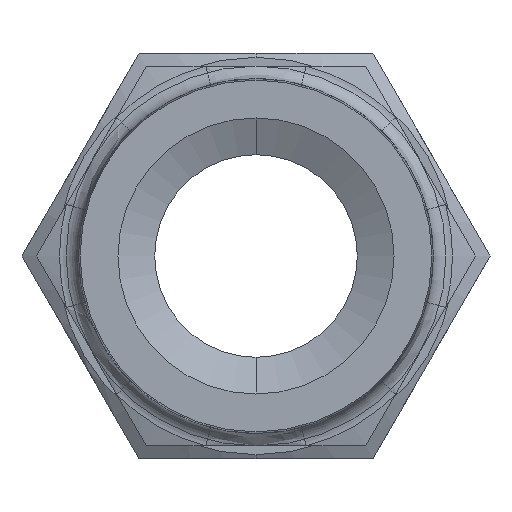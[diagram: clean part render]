
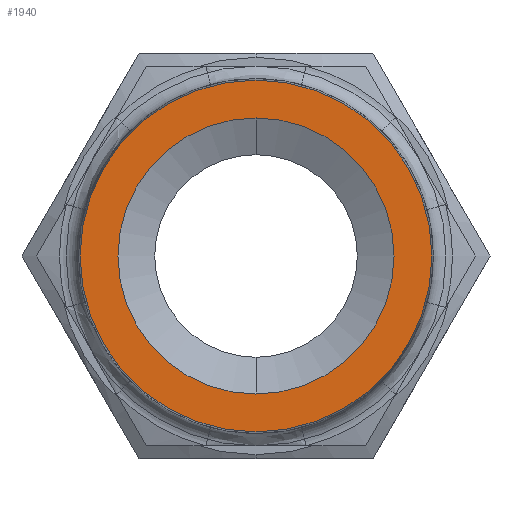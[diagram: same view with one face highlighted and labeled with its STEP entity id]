
A CAD part, left-side view. The second image highlights one B-rep face of the part: STEP entity #1940.
In plain terms, the highlighted planar face has unit normal (-1, 0, 0).
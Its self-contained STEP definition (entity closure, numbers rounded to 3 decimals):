
#524 = DIRECTION ( 'NONE',  ( -1., 0., 0. ) ) ;
#526 = DIRECTION ( 'NONE',  ( 0., 0., 1. ) ) ;
#722 = DIRECTION ( 'NONE',  ( 0., 0., 1. ) ) ;
#723 = DIRECTION ( 'NONE',  ( -1., 0., 0. ) ) ;
#724 = CARTESIAN_POINT ( 'NONE',  ( -27., 0., 0. ) ) ;
#725 = AXIS2_PLACEMENT_3D ( 'NONE', #724, #723, #722 ) ;
#727 = PLANE ( 'NONE',  #725 ) ;
#728 = FACE_BOUND ( 'NONE', #1974, .T. ) ;
#761 = DIRECTION ( 'NONE',  ( 0., 0., 1. ) ) ;
#762 = DIRECTION ( 'NONE',  ( -1., 0., 0. ) ) ;
#763 = AXIS2_PLACEMENT_3D ( 'NONE', #802, #762, #761 ) ;
#764 = CIRCLE ( 'NONE', #763, 8.65 ) ;
#765 = FACE_OUTER_BOUND ( 'NONE', #1970, .T. ) ;
#769 = CARTESIAN_POINT ( 'NONE',  ( -27., 0., 0. ) ) ;
#770 = AXIS2_PLACEMENT_3D ( 'NONE', #769, #524, #526 ) ;
#775 = CIRCLE ( 'NONE', #770, 11.024 ) ;
#802 = CARTESIAN_POINT ( 'NONE',  ( -27., 0., 0. ) ) ;
#814 = CARTESIAN_POINT ( 'NONE',  ( -27., 0., -8.65 ) ) ;
#851 = DIRECTION ( 'NONE',  ( 0., 0., 1. ) ) ;
#852 = DIRECTION ( 'NONE',  ( -1., 0., 0. ) ) ;
#853 = CARTESIAN_POINT ( 'NONE',  ( -27., 0., 0. ) ) ;
#854 = AXIS2_PLACEMENT_3D ( 'NONE', #853, #852, #851 ) ;
#855 = CIRCLE ( 'NONE', #854, 8.65 ) ;
#856 = CARTESIAN_POINT ( 'NONE',  ( -27., 0., 8.65 ) ) ;
#918 = CARTESIAN_POINT ( 'NONE',  ( -27., 0., -11.024 ) ) ;
#919 = DIRECTION ( 'NONE',  ( 0., 0., 1. ) ) ;
#920 = DIRECTION ( 'NONE',  ( -1., 0., 0. ) ) ;
#921 = CARTESIAN_POINT ( 'NONE',  ( -27., 0., 0. ) ) ;
#922 = AXIS2_PLACEMENT_3D ( 'NONE', #921, #920, #919 ) ;
#923 = CIRCLE ( 'NONE', #922, 11.024 ) ;
#928 = CARTESIAN_POINT ( 'NONE',  ( -27., 0., 11.024 ) ) ;
#1939 = EDGE_CURVE ( 'NONE', #2216, #2203, #764, .T. ) ;
#1940 = ADVANCED_FACE ( 'NONE', ( #765, #728 ), #727, .T. ) ;
#1970 = EDGE_LOOP ( 'NONE', ( #1971, #1973 ) ) ;
#1971 = ORIENTED_EDGE ( 'NONE', *, *, #1972, .T. ) ;
#1972 = EDGE_CURVE ( 'NONE', #2267, #2272, #775, .T. ) ;
#1973 = ORIENTED_EDGE ( 'NONE', *, *, #2271, .T. ) ;
#1974 = EDGE_LOOP ( 'NONE', ( #1975, #1976 ) ) ;
#1975 = ORIENTED_EDGE ( 'NONE', *, *, #1939, .F. ) ;
#1976 = ORIENTED_EDGE ( 'NONE', *, *, #2221, .F. ) ;
#2203 = VERTEX_POINT ( 'NONE', #814 ) ;
#2216 = VERTEX_POINT ( 'NONE', #856 ) ;
#2221 = EDGE_CURVE ( 'NONE', #2203, #2216, #855, .T. ) ;
#2267 = VERTEX_POINT ( 'NONE', #928 ) ;
#2271 = EDGE_CURVE ( 'NONE', #2272, #2267, #923, .T. ) ;
#2272 = VERTEX_POINT ( 'NONE', #918 ) ;
